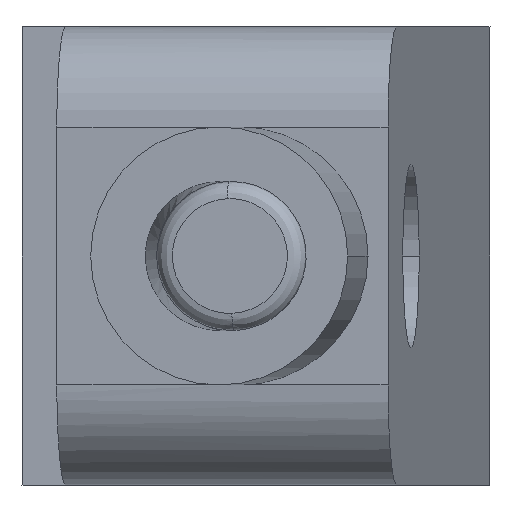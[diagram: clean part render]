
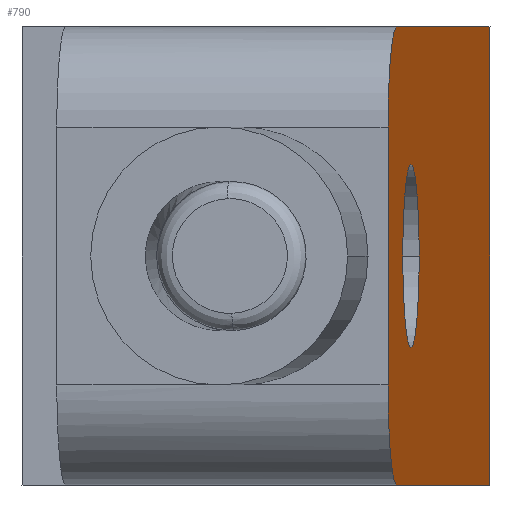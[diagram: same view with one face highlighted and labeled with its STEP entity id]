
A CAD part, front view. The second image highlights one B-rep face of the part: STEP entity #790.
In plain terms, the highlighted planar face has unit normal (0.996, -0.089, 0).
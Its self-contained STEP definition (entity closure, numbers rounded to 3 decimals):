
#4 = CARTESIAN_POINT ( 'NONE',  ( 34.871, 24.39, -3.9 ) ) ;
#43 = LINE ( 'NONE', #70, #1085 ) ;
#58 = VECTOR ( 'NONE', #723, 1000. ) ;
#70 = CARTESIAN_POINT ( 'NONE',  ( 36.899, 47.1, -7.9 ) ) ;
#73 = ORIENTED_EDGE ( 'NONE', *, *, #532, .F. ) ;
#233 = CARTESIAN_POINT ( 'NONE',  ( 35.378, 30.068, -7.9 ) ) ;
#247 = DIRECTION ( 'NONE',  ( 0.996, -0.089, 0. ) ) ;
#252 = FACE_BOUND ( 'NONE', #650, .T. ) ;
#253 = CARTESIAN_POINT ( 'NONE',  ( 35.521, 31.661, -7.9 ) ) ;
#275 = CARTESIAN_POINT ( 'NONE',  ( 35.276, 28.922, -10.15 ) ) ;
#278 = CARTESIAN_POINT ( 'NONE',  ( 35.12, 27.179, -5.65 ) ) ;
#286 = ORIENTED_EDGE ( 'NONE', *, *, #1197, .F. ) ;
#304 = VECTOR ( 'NONE', #1058, 1000. ) ;
#333 = CARTESIAN_POINT ( 'NONE',  ( 37.362, 52.279, -3.9 ) ) ;
#339 = ORIENTED_EDGE ( 'NONE', *, *, #1114, .F. ) ;
#349 = LINE ( 'NONE', #4, #583 ) ;
#354 = DIRECTION ( 'NONE',  ( 0., 0., 1. ) ) ;
#384 = VERTEX_POINT ( 'NONE', #704 ) ;
#420 = VERTEX_POINT ( 'NONE', #1196 ) ;
#461 = CIRCLE ( 'NONE', #994, 1.6 ) ;
#471 = AXIS2_PLACEMENT_3D ( 'NONE', #275, #965, #1062 ) ;
#495 = CARTESIAN_POINT ( 'NONE',  ( 35.276, 28.922, -11.9 ) ) ;
#532 = EDGE_CURVE ( 'NONE', #420, #1032, #349, .T. ) ;
#538 = AXIS2_PLACEMENT_3D ( 'NONE', #680, #1172, #581 ) ;
#541 = VERTEX_POINT ( 'NONE', #495 ) ;
#554 = CARTESIAN_POINT ( 'NONE',  ( 36.899, 47.1, -11.9 ) ) ;
#581 = DIRECTION ( 'NONE',  ( 0., 0., 1. ) ) ;
#583 = VECTOR ( 'NONE', #702, 1000. ) ;
#622 = ORIENTED_EDGE ( 'NONE', *, *, #1256, .T. ) ;
#629 = CARTESIAN_POINT ( 'NONE',  ( 35.663, 33.255, -7.9 ) ) ;
#636 = VERTEX_POINT ( 'NONE', #278 ) ;
#643 = EDGE_CURVE ( 'NONE', #1128, #541, #818, .T. ) ;
#650 = EDGE_LOOP ( 'NONE', ( #767, #339 ) ) ;
#680 = CARTESIAN_POINT ( 'NONE',  ( 35.276, 28.922, -5.65 ) ) ;
#702 = DIRECTION ( 'NONE',  ( 0.089, 0.996, 0. ) ) ;
#704 = CARTESIAN_POINT ( 'NONE',  ( 35.12, 27.179, -10.15 ) ) ;
#723 = DIRECTION ( 'NONE',  ( -0.089, -0.996, 0. ) ) ;
#731 = ORIENTED_EDGE ( 'NONE', *, *, #643, .F. ) ;
#739 = AXIS2_PLACEMENT_3D ( 'NONE', #333, #772, #864 ) ;
#763 = DIRECTION ( 'NONE',  ( 0., 0., -1. ) ) ;
#765 = EDGE_CURVE ( 'NONE', #384, #541, #1275, .T. ) ;
#767 = ORIENTED_EDGE ( 'NONE', *, *, #1031, .F. ) ;
#770 = VERTEX_POINT ( 'NONE', #629 ) ;
#772 = DIRECTION ( 'NONE',  ( -0.996, 0.089, 0. ) ) ;
#790 = ADVANCED_FACE ( 'NONE', ( #252, #1068 ), #878, .F. ) ;
#799 = LINE ( 'NONE', #1050, #304 ) ;
#818 = LINE ( 'NONE', #980, #58 ) ;
#822 = EDGE_CURVE ( 'NONE', #420, #636, #1012, .T. ) ;
#843 = CARTESIAN_POINT ( 'NONE',  ( 35.521, 31.661, -7.9 ) ) ;
#864 = DIRECTION ( 'NONE',  ( -0.089, -0.996, 0. ) ) ;
#878 = PLANE ( 'NONE',  #739 ) ;
#927 = VERTEX_POINT ( 'NONE', #233 ) ;
#939 = DIRECTION ( 'NONE',  ( 0., 0., 1. ) ) ;
#944 = DIRECTION ( 'NONE',  ( 0.996, -0.089, 0. ) ) ;
#965 = DIRECTION ( 'NONE',  ( 0.996, -0.089, 0. ) ) ;
#980 = CARTESIAN_POINT ( 'NONE',  ( 37.362, 52.279, -11.9 ) ) ;
#994 = AXIS2_PLACEMENT_3D ( 'NONE', #843, #247, #939 ) ;
#1012 = CIRCLE ( 'NONE', #538, 1.75 ) ;
#1014 = ORIENTED_EDGE ( 'NONE', *, *, #765, .T. ) ;
#1031 = EDGE_CURVE ( 'NONE', #927, #770, #461, .T. ) ;
#1032 = VERTEX_POINT ( 'NONE', #1036 ) ;
#1036 = CARTESIAN_POINT ( 'NONE',  ( 36.899, 47.1, -3.9 ) ) ;
#1050 = CARTESIAN_POINT ( 'NONE',  ( 35.12, 27.179, -3.9 ) ) ;
#1054 = EDGE_LOOP ( 'NONE', ( #622, #1014, #731, #286, #73, #1129 ) ) ;
#1058 = DIRECTION ( 'NONE',  ( 0., 0., -1. ) ) ;
#1062 = DIRECTION ( 'NONE',  ( 0., 0., 1. ) ) ;
#1068 = FACE_OUTER_BOUND ( 'NONE', #1054, .T. ) ;
#1085 = VECTOR ( 'NONE', #763, 1000. ) ;
#1114 = EDGE_CURVE ( 'NONE', #770, #927, #1153, .T. ) ;
#1128 = VERTEX_POINT ( 'NONE', #554 ) ;
#1129 = ORIENTED_EDGE ( 'NONE', *, *, #822, .T. ) ;
#1133 = AXIS2_PLACEMENT_3D ( 'NONE', #253, #944, #354 ) ;
#1153 = CIRCLE ( 'NONE', #1133, 1.6 ) ;
#1172 = DIRECTION ( 'NONE',  ( 0.996, -0.089, 0. ) ) ;
#1196 = CARTESIAN_POINT ( 'NONE',  ( 35.276, 28.922, -3.9 ) ) ;
#1197 = EDGE_CURVE ( 'NONE', #1032, #1128, #43, .T. ) ;
#1256 = EDGE_CURVE ( 'NONE', #636, #384, #799, .T. ) ;
#1275 = CIRCLE ( 'NONE', #471, 1.75 ) ;
